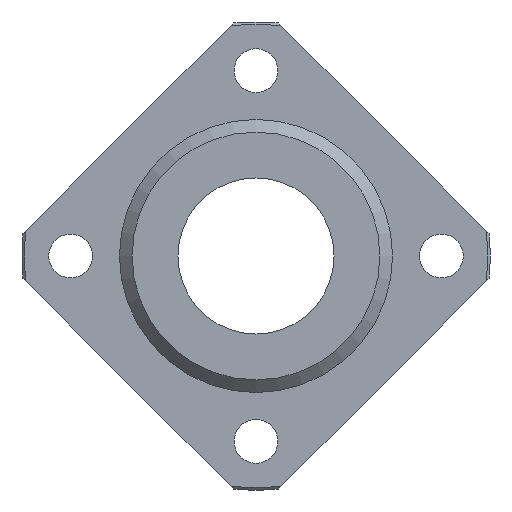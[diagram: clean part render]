
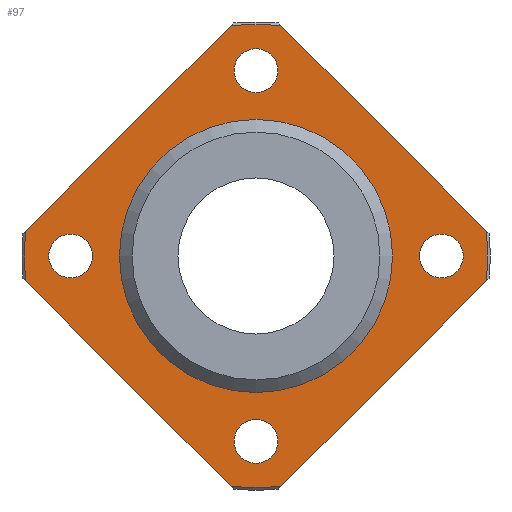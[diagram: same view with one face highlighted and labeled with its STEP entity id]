
A CAD part, left-side view. The second image highlights one B-rep face of the part: STEP entity #97.
In plain terms, the highlighted planar face has unit normal (-1, 0, 0).
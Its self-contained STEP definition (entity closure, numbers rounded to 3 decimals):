
#97=ADVANCED_FACE('',(#168,#169,#170,#171,#172,#173),#174,.F.);
#168=FACE_BOUND('',#271,.T.);
#169=FACE_BOUND('',#272,.T.);
#170=FACE_BOUND('',#273,.T.);
#171=FACE_BOUND('',#274,.T.);
#172=FACE_OUTER_BOUND('',#275,.T.);
#173=FACE_BOUND('',#276,.T.);
#174=PLANE('',#277);
#271=EDGE_LOOP('',(#482));
#272=EDGE_LOOP('',(#483));
#273=EDGE_LOOP('',(#484));
#274=EDGE_LOOP('',(#485));
#275=EDGE_LOOP('',(#486,#487,#488,#489,#490,#491,#492,#493));
#276=EDGE_LOOP('',(#494));
#277=AXIS2_PLACEMENT_3D('',#495,#496,#497);
#482=ORIENTED_EDGE('',*,*,#633,.T.);
#483=ORIENTED_EDGE('',*,*,#634,.T.);
#484=ORIENTED_EDGE('',*,*,#635,.T.);
#485=ORIENTED_EDGE('',*,*,#636,.T.);
#486=ORIENTED_EDGE('',*,*,#625,.T.);
#487=ORIENTED_EDGE('',*,*,#637,.T.);
#488=ORIENTED_EDGE('',*,*,#621,.T.);
#489=ORIENTED_EDGE('',*,*,#589,.T.);
#490=ORIENTED_EDGE('',*,*,#623,.T.);
#491=ORIENTED_EDGE('',*,*,#596,.T.);
#492=ORIENTED_EDGE('',*,*,#582,.T.);
#493=ORIENTED_EDGE('',*,*,#578,.T.);
#494=ORIENTED_EDGE('',*,*,#630,.T.);
#495=CARTESIAN_POINT('',(-9.0,23.746,0.0));
#496=DIRECTION('',(1.0,0.0,0.0));
#497=DIRECTION('',(0.0,0.0,-1.0));
#578=EDGE_CURVE('',#655,#653,#656,.T.);
#582=EDGE_CURVE('',#662,#655,#663,.T.);
#589=EDGE_CURVE('',#676,#674,#677,.T.);
#596=EDGE_CURVE('',#689,#662,#690,.T.);
#621=EDGE_CURVE('',#728,#676,#729,.T.);
#623=EDGE_CURVE('',#674,#689,#731,.T.);
#625=EDGE_CURVE('',#653,#732,#734,.T.);
#630=EDGE_CURVE('',#743,#743,#744,.T.);
#633=EDGE_CURVE('',#749,#749,#750,.T.);
#634=EDGE_CURVE('',#751,#751,#752,.T.);
#635=EDGE_CURVE('',#753,#753,#754,.T.);
#636=EDGE_CURVE('',#755,#755,#756,.T.);
#637=EDGE_CURVE('',#732,#728,#757,.T.);
#653=VERTEX_POINT('',#786);
#655=VERTEX_POINT('',#791);
#656=LINE('',#792,#793);
#662=VERTEX_POINT('',#806);
#663=CIRCLE('',#807,23.746);
#674=VERTEX_POINT('',#826);
#676=VERTEX_POINT('',#831);
#677=LINE('',#832,#833);
#689=VERTEX_POINT('',#857);
#690=LINE('',#858,#859);
#728=VERTEX_POINT('',#913);
#729=CIRCLE('',#914,23.746);
#731=CIRCLE('',#919,23.746);
#732=VERTEX_POINT('',#920);
#734=CIRCLE('',#925,23.746);
#743=VERTEX_POINT('',#934);
#744=CIRCLE('',#935,14.0);
#749=VERTEX_POINT('',#940);
#750=CIRCLE('',#941,2.25);
#751=VERTEX_POINT('',#942);
#752=CIRCLE('',#943,2.25);
#753=VERTEX_POINT('',#944);
#754=CIRCLE('',#945,2.25);
#755=VERTEX_POINT('',#946);
#756=CIRCLE('',#947,2.25);
#757=LINE('',#948,#949);
#786=CARTESIAN_POINT('',(-9.0,-2.555,23.608));
#791=CARTESIAN_POINT('',(-9.0,-23.608,2.555));
#792=CARTESIAN_POINT('',(-9.0,-1.208,24.954));
#793=VECTOR('',#968,1.0);
#806=CARTESIAN_POINT('',(-9.0,-23.608,-2.555));
#807=AXIS2_PLACEMENT_3D('',#970,#971,#972);
#826=CARTESIAN_POINT('',(-9.0,2.555,-23.608));
#831=CARTESIAN_POINT('',(-9.0,23.608,-2.555));
#832=CARTESIAN_POINT('',(-9.0,24.954,-1.208));
#833=VECTOR('',#978,1.0);
#857=CARTESIAN_POINT('',(-9.0,-2.555,-23.608));
#858=CARTESIAN_POINT('',(-9.0,-1.208,-24.954));
#859=VECTOR('',#982,1.0);
#913=CARTESIAN_POINT('',(-9.0,23.608,2.555));
#914=AXIS2_PLACEMENT_3D('',#1035,#1036,#1037);
#919=AXIS2_PLACEMENT_3D('',#1038,#1039,#1040);
#920=CARTESIAN_POINT('',(-9.0,2.555,23.608));
#925=AXIS2_PLACEMENT_3D('',#1041,#1042,#1043);
#934=CARTESIAN_POINT('',(-9.0,0.,-14.0));
#935=AXIS2_PLACEMENT_3D('',#1056,#1057,#1058);
#940=CARTESIAN_POINT('',(-9.0,0.0,16.75));
#941=AXIS2_PLACEMENT_3D('',#1065,#1066,#1067);
#942=CARTESIAN_POINT('',(-9.0,-19.0,-2.25));
#943=AXIS2_PLACEMENT_3D('',#1068,#1069,#1070);
#944=CARTESIAN_POINT('',(-9.0,0.,-21.25));
#945=AXIS2_PLACEMENT_3D('',#1071,#1072,#1073);
#946=CARTESIAN_POINT('',(-9.0,19.0,-2.25));
#947=AXIS2_PLACEMENT_3D('',#1074,#1075,#1076);
#948=CARTESIAN_POINT('',(-9.0,24.954,1.208));
#949=VECTOR('',#1077,1.0);
#968=DIRECTION('',(0.0,0.707,0.707));
#970=CARTESIAN_POINT('',(-9.0,0.,0.0));
#971=DIRECTION('',(-1.0,0.0,0.0));
#972=DIRECTION('',(0.0,0.0,1.0));
#978=DIRECTION('',(0.0,-0.707,-0.707));
#982=DIRECTION('',(0.0,-0.707,0.707));
#1035=CARTESIAN_POINT('',(-9.0,0.,0.0));
#1036=DIRECTION('',(-1.0,0.0,0.0));
#1037=DIRECTION('',(0.0,0.0,1.0));
#1038=CARTESIAN_POINT('',(-9.0,0.,0.0));
#1039=DIRECTION('',(-1.0,0.0,0.0));
#1040=DIRECTION('',(0.0,0.0,1.0));
#1041=CARTESIAN_POINT('',(-9.0,0.,0.0));
#1042=DIRECTION('',(-1.0,0.0,0.0));
#1043=DIRECTION('',(0.0,0.0,1.0));
#1056=CARTESIAN_POINT('',(-9.0,0.,0.0));
#1057=DIRECTION('',(1.0,0.0,0.0));
#1058=DIRECTION('',(0.0,0.0,-1.0));
#1065=CARTESIAN_POINT('',(-9.0,0.0,19.0));
#1066=DIRECTION('',(1.0,0.0,0.0));
#1067=DIRECTION('',(0.0,0.0,-1.0));
#1068=CARTESIAN_POINT('',(-9.0,-19.0,0.));
#1069=DIRECTION('',(1.0,0.0,0.0));
#1070=DIRECTION('',(0.0,0.0,-1.0));
#1071=CARTESIAN_POINT('',(-9.0,0.,-19.0));
#1072=DIRECTION('',(1.0,0.0,0.0));
#1073=DIRECTION('',(0.0,0.0,-1.0));
#1074=CARTESIAN_POINT('',(-9.0,19.0,0.0));
#1075=DIRECTION('',(1.0,0.0,0.0));
#1076=DIRECTION('',(0.0,0.0,-1.0));
#1077=DIRECTION('',(0.0,0.707,-0.707));
